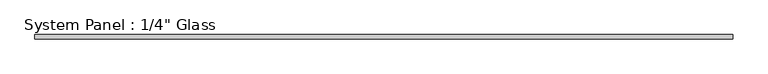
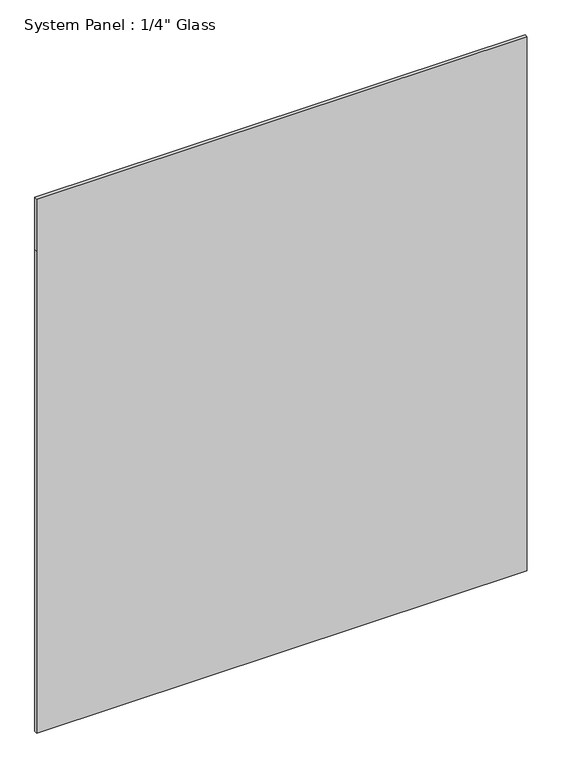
"""IFC4 building model written with IfcOpenShell, lengths in millimetres: plate geometry."""

from ifc_helpers import new_model, si_unit, frame, origin, place, context, project, spatial, polyline, outline, extrude, source, transform, mapped, element, save


def plate_33b08ce2(model_context):
    return source(origin(), model_context, "Body", "SweptSolid", [
        extrude(outline(polyline([(0.0, -537.5400656), (0.0, 537.5400656), (1116.4405973, 537.5400656), (1237.0923678, 537.5400656), (1237.0923678, -537.5400656), (1116.4405973, -537.5400656), (0.0, -537.5400656)])), frame((0.0, -3.175, 0.0), z_axis=(0.0, 1.0, 0.0), x_axis=(0.0, 0.0, 1.0)), (0.0, 0.0, 1.0), 6.35),
    ])


if __name__ == "__main__":
    model = new_model("IFC4")
    model_context = context("Model", 3, world=origin())
    ifc_project = project(units=[si_unit("LENGTHUNIT", "METRE", prefix="MILLI")], contexts=[model_context])
    site = spatial("IfcSite", under=ifc_project)
    building = spatial("IfcBuilding", under=site)
    placement = place(None, origin())
    plate_shape = plate_33b08ce2(model_context)
    element("IfcPlate", 1, ObjectType="System Panel : 1/4\" Glass", at=placement, inside=building, context=model_context, shape_type="MappedRepresentation", body=[
        mapped(plate_shape, transform((0.0, 0.0, 0.0), x_axis=(1.0, 0.0, 0.0), y_axis=(0.0, 1.0, 0.0), z_axis=(0.0, 0.0, 1.0))),
    ])
    save(model, "model.ifc")
